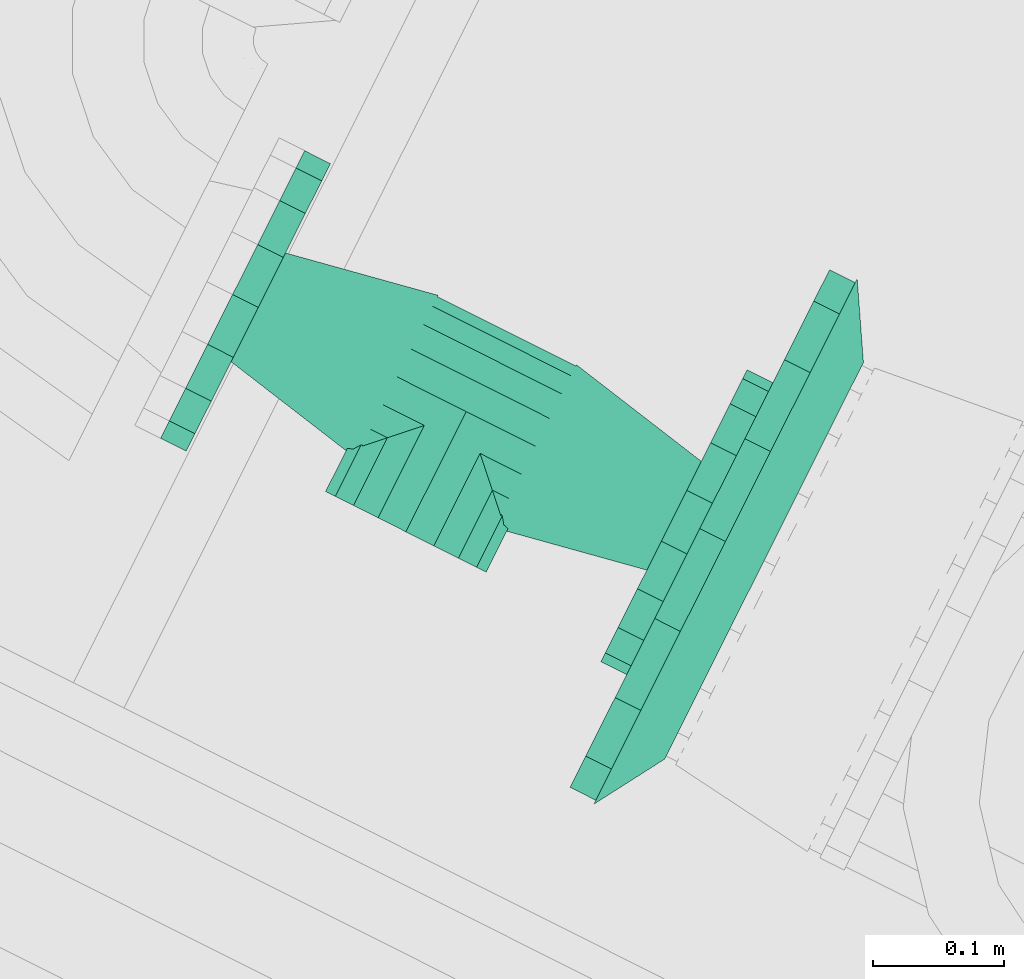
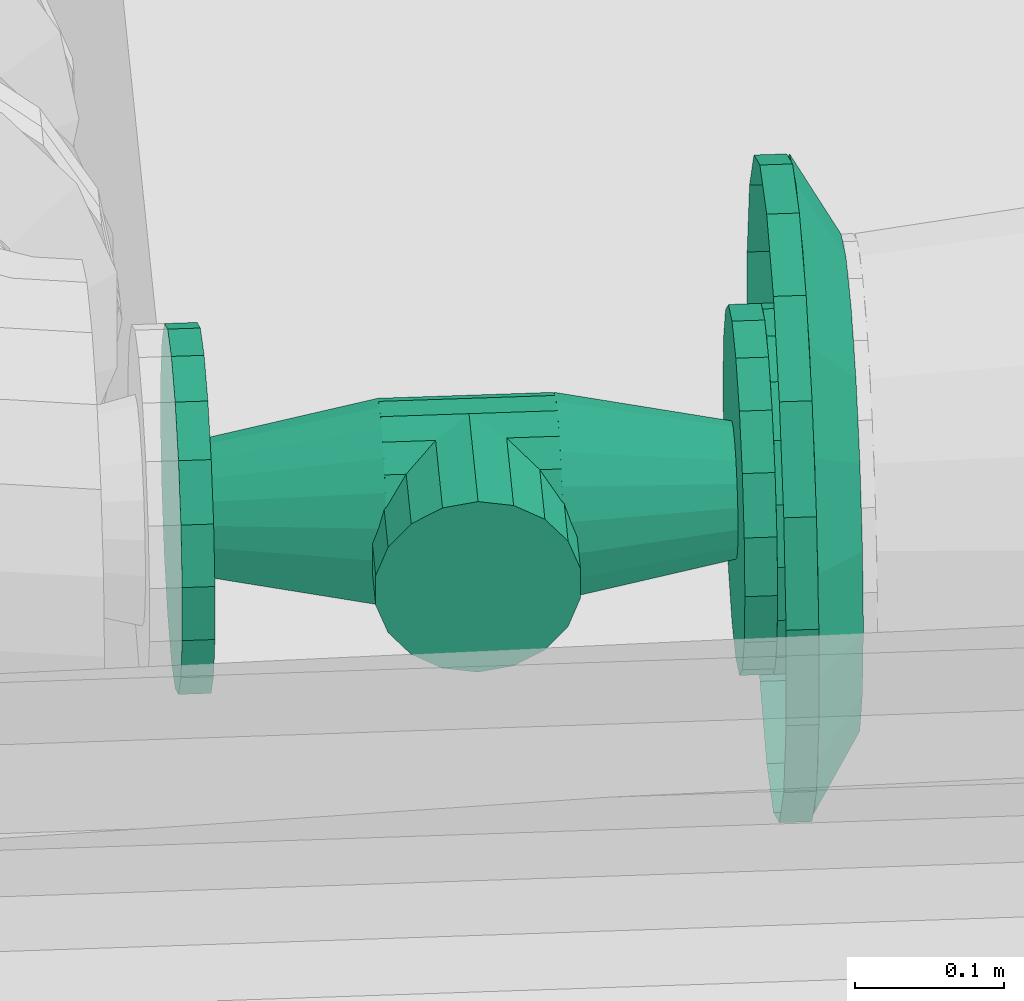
# One storey, part 63 of 206: 1 flow controller, 1 flow fitting.
"""IFC2X3 building model written with IfcOpenShell, lengths in metres."""

from ifc_helpers import new_model, si_unit, derived_unit, direction, frame, origin, place, context, subcontext, project, spatial, face_set, surface_model, source, transform, mapped, material, type_object, type_shapes, element, save


model = new_model("IFC2X3")

# Units and contexts
model_context = context("Model", 3, precision=5.2338327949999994e-05, world=origin(), true_north=direction((0.0, 1.0)))
body_context = subcontext(model_context, "Body", "Model", "MODEL_VIEW")
ifc_project = project(units=[si_unit("LENGTHUNIT", "METRE"), si_unit("AREAUNIT", "SQUARE_METRE"), si_unit("VOLUMEUNIT", "CUBIC_METRE"), si_unit("MASSUNIT", "GRAM", prefix="KILO"), si_unit("PLANEANGLEUNIT", "RADIAN"), derived_unit("THERMALTRANSMITTANCEUNIT", [(si_unit("MASSUNIT", "GRAM", prefix="KILO"), 1), (si_unit("THERMODYNAMICTEMPERATUREUNIT", "KELVIN"), -1), (si_unit("TIMEUNIT", "SECOND"), -3)])], contexts=[model_context])

# Site, building, storey
site_placement = place(None, frame((0.0, 0.0, 0.0), z_axis=(0.0, 0.0, 1.0), x_axis=(0.8939966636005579, -0.4480736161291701, 0.0)))
site = spatial("IfcSite", under=ifc_project, at=site_placement, Name="Default", CompositionType="ELEMENT")
building_placement = place(site_placement, origin())
building = spatial("IfcBuilding", under=site, at=building_placement, CompositionType="ELEMENT")
storey_placement = place(building_placement, origin())
storey = spatial("IfcBuildingStorey", under=building, at=storey_placement, Name="Erdgeschoss", CompositionType="ELEMENT", Elevation=0.0)

# Flow controller
ifc_material = material(Name="IfcSurfaceStyle #1741")
distribution_element_type_1 = type_object("IfcDistributionElementType", Name="Rückschlagklappe 340834:Rückschlagklappe 340834", material=ifc_material)
shared_shape_1 = source(origin(), body_context, "Body", "SurfaceModel", [
    surface_model("IfcFaceBasedSurfaceModel", [(25.684855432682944, 5.395961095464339, 2.479), (25.684855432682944, 5.353208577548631, 2.471461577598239), (25.706855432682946, 5.353208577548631, 2.471461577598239), (25.706855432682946, 5.395961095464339, 2.479), (25.684855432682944, 5.315612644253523, 2.449755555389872), (25.706855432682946, 5.315612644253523, 2.449755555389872), (25.684855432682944, 5.287707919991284, 2.4165000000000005), (25.706855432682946, 5.287707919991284, 2.4165000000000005), (25.684855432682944, 5.272860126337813, 2.3757060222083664), (25.706855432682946, 5.272860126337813, 2.3757060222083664), (25.684855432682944, 5.272860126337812, 2.3322939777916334), (25.706855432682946, 5.272860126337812, 2.3322939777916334), (25.684855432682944, 5.287707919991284, 2.2915000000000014), (25.706855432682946, 5.287707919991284, 2.2915000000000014), (25.684855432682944, 5.315612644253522, 2.2582444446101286), (25.706855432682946, 5.315612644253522, 2.2582444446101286), (25.684855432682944, 5.35320857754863, 2.236538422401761), (25.706855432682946, 5.35320857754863, 2.236538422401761), (25.684855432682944, 5.3959610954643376, 2.2290000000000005), (25.706855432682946, 5.3959610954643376, 2.2290000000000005), (25.684855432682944, 5.438713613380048, 2.236538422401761), (25.706855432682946, 5.438713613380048, 2.236538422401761), (25.684855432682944, 5.476309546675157, 2.2582444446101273), (25.706855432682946, 5.476309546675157, 2.2582444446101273), (25.684855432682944, 5.504214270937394, 2.2915), (25.706855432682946, 5.504214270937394, 2.2915), (25.684855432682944, 5.519062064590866, 2.332293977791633), (25.706855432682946, 5.519062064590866, 2.332293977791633), (25.684855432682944, 5.519062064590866, 2.3757060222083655), (25.706855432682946, 5.519062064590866, 2.3757060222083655), (25.684855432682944, 5.5042142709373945, 2.4165), (25.706855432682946, 5.5042142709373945, 2.4165), (25.684855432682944, 5.476309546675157, 2.44975555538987), (25.706855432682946, 5.476309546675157, 2.44975555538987), (25.684855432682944, 5.4387136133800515, 2.471461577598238), (25.706855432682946, 5.4387136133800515, 2.471461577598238), (25.684855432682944, 5.395961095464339, 2.354), (25.70685543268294, 5.395961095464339, 2.354), (25.706855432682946, 5.4425277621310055, 2.3539999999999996), (25.706855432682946, 5.439719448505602, 2.3699267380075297), (25.82552209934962, 5.461598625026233, 2.377890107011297), (25.82552209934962, 5.465811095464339, 2.353999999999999), (25.706855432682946, 5.431633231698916, 2.383932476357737), (25.82552209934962, 5.449469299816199, 2.398898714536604), (25.706855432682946, 5.419244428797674, 2.3943279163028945), (25.82552209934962, 5.43088609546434, 2.414491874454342), (25.706855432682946, 5.40404731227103, 2.399859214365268), (25.82552209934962, 5.408090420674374, 2.422788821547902), (25.706855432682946, 5.387874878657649, 2.3998592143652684), (25.82552209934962, 5.383831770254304, 2.4227888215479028), (25.706855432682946, 5.372677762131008, 2.394327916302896), (25.82552209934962, 5.361036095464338, 2.414491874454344), (25.706855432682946, 5.360288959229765, 2.383932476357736), (25.82552209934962, 5.342452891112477, 2.398898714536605), (25.706855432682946, 5.352202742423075, 2.36992673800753), (25.82552209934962, 5.330323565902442, 2.3778901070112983), (25.706855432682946, 5.349394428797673, 2.3540000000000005), (25.82552209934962, 5.326111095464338, 2.3540000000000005), (25.706855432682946, 5.352202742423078, 2.338073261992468), (25.82552209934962, 5.330323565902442, 2.3301098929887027), (25.706855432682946, 5.360288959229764, 2.324067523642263), (25.82552209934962, 5.342452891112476, 2.3091012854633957), (25.706855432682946, 5.372677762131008, 2.3136720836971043), (25.82552209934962, 5.361036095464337, 2.293508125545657), (25.706855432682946, 5.387874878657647, 2.3081407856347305), (25.82552209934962, 5.383831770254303, 2.285211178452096), (25.706855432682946, 5.40404731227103, 2.3081407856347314), (25.82552209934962, 5.408090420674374, 2.285211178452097), (25.706855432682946, 5.419244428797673, 2.3136720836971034), (25.82552209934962, 5.430886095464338, 2.2935081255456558), (25.706855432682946, 5.431633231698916, 2.324067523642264), (25.82552209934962, 5.449469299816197, 2.309101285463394), (25.706855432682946, 5.439719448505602, 2.338073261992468), (25.82552209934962, 5.461598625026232, 2.330109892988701), (25.825522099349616, 5.395961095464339, 2.4238499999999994), (25.825522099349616, 5.372070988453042, 2.4196375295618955), (25.944188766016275, 5.372070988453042, 2.4196375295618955), (25.944188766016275, 5.395961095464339, 2.4238499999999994), (25.825522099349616, 5.3510623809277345, 2.4075082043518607), (25.944188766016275, 5.3510623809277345, 2.4075082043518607), (25.825522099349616, 5.335469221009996, 2.3889250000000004), (25.944188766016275, 5.335469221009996, 2.3889250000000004), (25.825522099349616, 5.327172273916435, 2.366129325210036), (25.944188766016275, 5.327172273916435, 2.366129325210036), (25.825522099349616, 5.327172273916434, 2.3418706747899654), (25.944188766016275, 5.327172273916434, 2.3418706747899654), (25.825522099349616, 5.335469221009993, 2.319075), (25.944188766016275, 5.335469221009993, 2.319075), (25.825522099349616, 5.3510623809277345, 2.3004917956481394), (25.944188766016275, 5.3510623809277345, 2.3004917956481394), (25.825522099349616, 5.372070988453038, 2.2883624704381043), (25.944188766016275, 5.372070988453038, 2.2883624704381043), (25.825522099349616, 5.395961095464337, 2.2841500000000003), (25.944188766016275, 5.395961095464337, 2.2841500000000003), (25.825522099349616, 5.419851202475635, 2.2883624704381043), (25.944188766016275, 5.419851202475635, 2.2883624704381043), (25.825522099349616, 5.4408598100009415, 2.300491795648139), (25.944188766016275, 5.4408598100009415, 2.300491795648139), (25.825522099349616, 5.456452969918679, 2.319074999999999), (25.944188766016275, 5.456452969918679, 2.319074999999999), (25.825522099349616, 5.46474991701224, 2.341870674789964), (25.944188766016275, 5.46474991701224, 2.341870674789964), (25.825522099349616, 5.464749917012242, 2.366129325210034), (25.944188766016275, 5.464749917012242, 2.366129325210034), (25.825522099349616, 5.456452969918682, 2.388924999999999), (25.944188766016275, 5.456452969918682, 2.388924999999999), (25.825522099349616, 5.4408598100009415, 2.4075082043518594), (25.944188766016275, 5.4408598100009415, 2.4075082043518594), (25.825522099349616, 5.419851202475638, 2.419637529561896), (25.944188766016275, 5.419851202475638, 2.419637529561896), (25.944188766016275, 5.465811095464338, 2.353999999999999), (25.944188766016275, 5.461598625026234, 2.3778901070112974), (26.062855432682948, 5.439719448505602, 2.369926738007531), (26.062855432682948, 5.442527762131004, 2.3539999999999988), (25.944188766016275, 5.449469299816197, 2.398898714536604), (26.062855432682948, 5.431633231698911, 2.383932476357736), (25.944188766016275, 5.430886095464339, 2.4144918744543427), (26.062855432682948, 5.41924442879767, 2.3943279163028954), (25.944188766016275, 5.408090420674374, 2.422788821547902), (26.062855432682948, 5.404047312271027, 2.3998592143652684), (25.944188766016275, 5.383831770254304, 2.4227888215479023), (26.062855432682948, 5.387874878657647, 2.3998592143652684), (25.944188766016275, 5.361036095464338, 2.414491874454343), (26.062855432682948, 5.372677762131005, 2.3943279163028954), (25.944188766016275, 5.342452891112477, 2.3988987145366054), (26.062855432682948, 5.360288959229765, 2.383932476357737), (25.944188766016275, 5.330323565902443, 2.3778901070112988), (26.062855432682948, 5.352202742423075, 2.369926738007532), (25.944188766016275, 5.326111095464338, 2.354), (26.062855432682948, 5.349394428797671, 2.3539999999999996), (25.944188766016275, 5.33032356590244, 2.3301098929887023), (26.062855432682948, 5.352202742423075, 2.3380732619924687), (25.944188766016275, 5.342452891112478, 2.309101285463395), (26.062855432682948, 5.360288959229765, 2.324067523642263), (25.944188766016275, 5.361036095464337, 2.293508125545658), (26.062855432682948, 5.372677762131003, 2.3136720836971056), (25.944188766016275, 5.383831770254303, 2.285211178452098), (26.062855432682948, 5.387874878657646, 2.3081407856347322), (25.944188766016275, 5.408090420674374, 2.285211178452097), (26.062855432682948, 5.404047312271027, 2.3081407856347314), (25.944188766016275, 5.430886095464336, 2.2935081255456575), (26.062855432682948, 5.41924442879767, 2.313672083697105), (25.944188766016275, 5.449469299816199, 2.309101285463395), (26.062855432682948, 5.431633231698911, 2.324067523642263), (25.944188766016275, 5.46159862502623, 2.330109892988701), (26.062855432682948, 5.439719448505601, 2.338073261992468), (25.884855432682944, 5.395961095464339, 2.4238499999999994), (25.860965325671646, 5.395961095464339, 2.4196375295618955), (25.860965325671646, 5.292961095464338, 2.419637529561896), (25.884855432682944, 5.292961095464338, 2.42385), (25.83995671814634, 5.3959610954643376, 2.4075082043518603), (25.83995671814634, 5.292961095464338, 2.407508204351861), (25.8243635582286, 5.39596109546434, 2.388925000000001), (25.8243635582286, 5.292961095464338, 2.3889250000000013), (25.81606661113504, 5.3959610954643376, 2.366129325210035), (25.81606661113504, 5.292961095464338, 2.366129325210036), (25.81606661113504, 5.3959610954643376, 2.3418706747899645), (25.81606661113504, 5.292961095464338, 2.341870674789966), (25.8243635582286, 5.395961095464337, 2.3190749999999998), (25.8243635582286, 5.292961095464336, 2.3190750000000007), (25.83995671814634, 5.395961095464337, 2.300491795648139), (25.83995671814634, 5.292961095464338, 2.3004917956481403), (25.860965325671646, 5.395961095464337, 2.2883624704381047), (25.860965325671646, 5.292961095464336, 2.288362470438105), (25.884855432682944, 5.395961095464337, 2.2841500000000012), (25.884855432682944, 5.292961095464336, 2.2841500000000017), (25.908745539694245, 5.395961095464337, 2.288362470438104), (25.908745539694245, 5.292961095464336, 2.288362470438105), (25.92975414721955, 5.395961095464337, 2.300491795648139), (25.92975414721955, 5.292961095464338, 2.3004917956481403), (25.945347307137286, 5.395961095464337, 2.3190749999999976), (25.945347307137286, 5.292961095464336, 2.3190749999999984), (25.953644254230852, 5.395961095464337, 2.3418706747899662), (25.953644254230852, 5.292961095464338, 2.3418706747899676), (25.953644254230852, 5.3959610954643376, 2.366129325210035), (25.953644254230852, 5.292961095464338, 2.366129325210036), (25.945347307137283, 5.39596109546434, 2.388924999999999), (25.945347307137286, 5.292961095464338, 2.3889249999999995), (25.929754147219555, 5.3959610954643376, 2.407508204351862), (25.92975414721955, 5.292961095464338, 2.407508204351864), (25.908745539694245, 5.39596109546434, 2.419637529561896), (25.908745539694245, 5.292961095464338, 2.419637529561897), (25.884855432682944, 5.292961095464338, 2.354000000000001), (26.062855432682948, 5.270961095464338, 2.354000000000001), (26.062855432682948, 5.278499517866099, 2.3112474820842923), (26.084855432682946, 5.278499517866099, 2.3112474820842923), (26.084855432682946, 5.270961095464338, 2.354000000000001), (26.062855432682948, 5.300205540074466, 2.273651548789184), (26.084855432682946, 5.300205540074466, 2.273651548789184), (26.062855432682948, 5.333461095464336, 2.2457468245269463), (26.084855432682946, 5.333461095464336, 2.2457468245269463), (26.062855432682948, 5.374255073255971, 2.230899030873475), (26.084855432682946, 5.374255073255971, 2.230899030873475), (26.062855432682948, 5.417667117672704, 2.230899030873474), (26.084855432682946, 5.417667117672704, 2.230899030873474), (26.062855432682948, 5.458461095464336, 2.245746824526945), (26.084855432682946, 5.458461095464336, 2.245746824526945), (26.062855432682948, 5.49171665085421, 2.2736515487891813), (26.084855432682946, 5.49171665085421, 2.2736515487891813), (26.062855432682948, 5.513422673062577, 2.311247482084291), (26.084855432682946, 5.513422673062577, 2.311247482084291), (26.062855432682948, 5.5209610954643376, 2.3539999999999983), (26.084855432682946, 5.5209610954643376, 2.3539999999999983), (26.062855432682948, 5.513422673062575, 2.396752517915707), (26.084855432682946, 5.513422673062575, 2.396752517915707), (26.062855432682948, 5.49171665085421, 2.4343484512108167), (26.084855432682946, 5.49171665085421, 2.4343484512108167), (26.062855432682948, 5.45846109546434, 2.462253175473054), (26.084855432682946, 5.45846109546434, 2.462253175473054), (26.062855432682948, 5.417667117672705, 2.4771009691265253), (26.084855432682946, 5.417667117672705, 2.4771009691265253), (26.062855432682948, 5.3742550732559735, 2.477100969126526), (26.084855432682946, 5.3742550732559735, 2.477100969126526), (26.062855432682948, 5.33346109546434, 2.4622531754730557), (26.084855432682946, 5.33346109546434, 2.4622531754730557), (26.062855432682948, 5.300205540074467, 2.4343484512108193), (26.084855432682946, 5.300205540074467, 2.4343484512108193), (26.062855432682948, 5.278499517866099, 2.39675251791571), (26.084855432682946, 5.278499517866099, 2.39675251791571), (26.062855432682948, 5.3959610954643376, 2.354), (26.084855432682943, 5.3959610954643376, 2.354)], [face_set([[[0, 1, 2, 3]], [[1, 4, 5, 2]], [[4, 6, 7, 5]], [[6, 8, 9, 7]], [[8, 10, 11, 9]], [[10, 12, 13, 11]], [[12, 14, 15, 13]], [[14, 16, 17, 15]], [[16, 18, 19, 17]], [[18, 20, 21, 19]], [[20, 22, 23, 21]], [[22, 24, 25, 23]], [[24, 26, 27, 25]], [[26, 28, 29, 27]], [[28, 30, 31, 29]], [[30, 32, 33, 31]], [[32, 34, 35, 33]], [[34, 0, 3, 35]], [[36, 1, 0]], [[36, 4, 1]], [[36, 6, 4]], [[36, 8, 6]], [[36, 10, 8]], [[36, 12, 10]], [[36, 14, 12]], [[36, 16, 14]], [[36, 18, 16]], [[36, 20, 18]], [[36, 22, 20]], [[36, 24, 22]], [[36, 26, 24]], [[36, 28, 26]], [[36, 30, 28]], [[36, 32, 30]], [[36, 34, 32]], [[36, 0, 34]], [[37, 35, 3]], [[37, 33, 35]], [[37, 31, 33]], [[37, 29, 31]], [[37, 27, 29]], [[37, 25, 27]], [[37, 23, 25]], [[37, 21, 23]], [[37, 19, 21]], [[37, 17, 19]], [[37, 15, 17]], [[37, 13, 15]], [[37, 11, 13]], [[37, 9, 11]], [[37, 7, 9]], [[37, 5, 7]], [[37, 2, 5]], [[37, 3, 2]], [[38, 39, 40, 41]], [[39, 42, 43, 40]], [[42, 44, 45, 43]], [[44, 46, 47, 45]], [[46, 48, 49, 47]], [[48, 50, 51, 49]], [[50, 52, 53, 51]], [[52, 54, 55, 53]], [[54, 56, 57, 55]], [[56, 58, 59, 57]], [[58, 60, 61, 59]], [[60, 62, 63, 61]], [[62, 64, 65, 63]], [[64, 66, 67, 65]], [[66, 68, 69, 67]], [[68, 70, 71, 69]], [[70, 72, 73, 71]], [[72, 38, 41, 73]], [[74, 75, 76, 77]], [[75, 78, 79, 76]], [[78, 80, 81, 79]], [[80, 82, 83, 81]], [[82, 84, 85, 83]], [[84, 86, 87, 85]], [[86, 88, 89, 87]], [[88, 90, 91, 89]], [[90, 92, 93, 91]], [[92, 94, 95, 93]], [[94, 96, 97, 95]], [[96, 98, 99, 97]], [[98, 100, 101, 99]], [[100, 102, 103, 101]], [[102, 104, 105, 103]], [[104, 106, 107, 105]], [[106, 108, 109, 107]], [[108, 74, 77, 109]], [[110, 111, 112, 113]], [[111, 114, 115, 112]], [[114, 116, 117, 115]], [[116, 118, 119, 117]], [[118, 120, 121, 119]], [[120, 122, 123, 121]], [[122, 124, 125, 123]], [[124, 126, 127, 125]], [[126, 128, 129, 127]], [[128, 130, 131, 129]], [[130, 132, 133, 131]], [[132, 134, 135, 133]], [[134, 136, 137, 135]], [[136, 138, 139, 137]], [[138, 140, 141, 139]], [[140, 142, 143, 141]], [[142, 144, 145, 143]], [[144, 110, 113, 145]], [[146, 147, 148, 149]], [[147, 150, 151, 148]], [[150, 152, 153, 151]], [[152, 154, 155, 153]], [[154, 156, 157, 155]], [[156, 158, 159, 157]], [[158, 160, 161, 159]], [[160, 162, 163, 161]], [[162, 164, 165, 163]], [[164, 166, 167, 165]], [[166, 168, 169, 167]], [[168, 170, 171, 169]], [[170, 172, 173, 171]], [[172, 174, 175, 173]], [[174, 176, 177, 175]], [[176, 178, 179, 177]], [[178, 180, 181, 179]], [[180, 146, 149, 181]], [[182, 181, 149]], [[182, 179, 181]], [[182, 177, 179]], [[182, 175, 177]], [[182, 173, 175]], [[182, 171, 173]], [[182, 169, 171]], [[182, 167, 169]], [[182, 165, 167]], [[182, 163, 165]], [[182, 161, 163]], [[182, 159, 161]], [[182, 157, 159]], [[182, 155, 157]], [[182, 153, 155]], [[182, 151, 153]], [[182, 148, 151]], [[182, 149, 148]], [[183, 184, 185, 186]], [[184, 187, 188, 185]], [[187, 189, 190, 188]], [[189, 191, 192, 190]], [[191, 193, 194, 192]], [[193, 195, 196, 194]], [[195, 197, 198, 196]], [[197, 199, 200, 198]], [[199, 201, 202, 200]], [[201, 203, 204, 202]], [[203, 205, 206, 204]], [[205, 207, 208, 206]], [[207, 209, 210, 208]], [[209, 211, 212, 210]], [[211, 213, 214, 212]], [[213, 215, 216, 214]], [[215, 217, 218, 216]], [[217, 183, 186, 218]], [[219, 184, 183]], [[219, 187, 184]], [[219, 189, 187]], [[219, 191, 189]], [[219, 193, 191]], [[219, 195, 193]], [[219, 197, 195]], [[219, 199, 197]], [[219, 201, 199]], [[219, 203, 201]], [[219, 205, 203]], [[219, 207, 205]], [[219, 209, 207]], [[219, 211, 209]], [[219, 213, 211]], [[219, 215, 213]], [[219, 217, 215]], [[219, 183, 217]], [[220, 218, 186]], [[220, 216, 218]], [[220, 214, 216]], [[220, 212, 214]], [[220, 210, 212]], [[220, 208, 210]], [[220, 206, 208]], [[220, 204, 206]], [[220, 202, 204]], [[220, 200, 202]], [[220, 198, 200]], [[220, 196, 198]], [[220, 194, 196]], [[220, 192, 194]], [[220, 190, 192]], [[220, 188, 190]], [[220, 185, 188]], [[220, 186, 185]]])]),
])
type_shapes(distribution_element_type_1, [shared_shape_1])
flow_controller_placement = place(storey_placement, origin())
element("IfcFlowController", 1, at=flow_controller_placement, inside=storey, type_object=distribution_element_type_1, material=ifc_material, Name="Rückschlagklappe", ObjectType="Rückschlagklappe", context=body_context, shape_type="MappedRepresentation", body=[
    mapped(shared_shape_1, transform((0.0, 0.0, 0.0), scale=1.0)),
])

# Flow fitting
distribution_element_type_2 = type_object("IfcDistributionElementType", Name="Flansch 340903:Flansch 340903", material=ifc_material)
shared_shape_2 = source(origin(), body_context, "Body", "SurfaceModel", [
    surface_model("IfcFaceBasedSurfaceModel", [(26.084855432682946, 5.395961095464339, 2.479), (26.084855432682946, 5.353208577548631, 2.471461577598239), (26.106855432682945, 5.353208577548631, 2.471461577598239), (26.106855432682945, 5.395961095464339, 2.479), (26.084855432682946, 5.315612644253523, 2.449755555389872), (26.106855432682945, 5.315612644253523, 2.449755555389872), (26.084855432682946, 5.287707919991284, 2.4165000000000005), (26.106855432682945, 5.287707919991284, 2.4165000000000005), (26.084855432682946, 5.272860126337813, 2.3757060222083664), (26.106855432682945, 5.272860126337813, 2.3757060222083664), (26.084855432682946, 5.272860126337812, 2.3322939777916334), (26.106855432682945, 5.272860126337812, 2.3322939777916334), (26.084855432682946, 5.287707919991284, 2.2915000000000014), (26.106855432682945, 5.287707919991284, 2.2915000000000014), (26.084855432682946, 5.315612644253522, 2.2582444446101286), (26.106855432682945, 5.315612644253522, 2.2582444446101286), (26.084855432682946, 5.35320857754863, 2.236538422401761), (26.106855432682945, 5.35320857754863, 2.236538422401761), (26.084855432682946, 5.3959610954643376, 2.2290000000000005), (26.106855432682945, 5.3959610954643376, 2.2290000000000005), (26.084855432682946, 5.438713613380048, 2.236538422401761), (26.106855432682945, 5.438713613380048, 2.236538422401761), (26.084855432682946, 5.476309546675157, 2.2582444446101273), (26.106855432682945, 5.476309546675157, 2.2582444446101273), (26.084855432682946, 5.504214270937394, 2.2915), (26.106855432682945, 5.504214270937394, 2.2915), (26.084855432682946, 5.519062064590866, 2.332293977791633), (26.106855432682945, 5.519062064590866, 2.332293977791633), (26.084855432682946, 5.519062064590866, 2.3757060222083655), (26.106855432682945, 5.519062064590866, 2.3757060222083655), (26.084855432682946, 5.5042142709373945, 2.4165), (26.106855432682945, 5.5042142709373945, 2.4165), (26.084855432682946, 5.476309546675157, 2.44975555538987), (26.106855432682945, 5.476309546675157, 2.44975555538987), (26.084855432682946, 5.4387136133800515, 2.471461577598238), (26.106855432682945, 5.4387136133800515, 2.471461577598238), (26.106855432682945, 5.395961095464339, 2.354), (26.106855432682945, 5.3179610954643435, 2.3539999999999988), (26.106855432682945, 5.322665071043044, 2.327322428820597), (26.139855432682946, 5.330323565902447, 2.330109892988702), (26.139855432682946, 5.32611109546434, 2.353999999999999), (26.106855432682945, 5.336209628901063, 2.3038625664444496), (26.139855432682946, 5.3424528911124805, 2.3091012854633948), (26.106855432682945, 5.356961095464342, 2.286450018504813), (26.139855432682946, 5.361036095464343, 2.293508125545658), (26.106855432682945, 5.382416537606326, 2.2771849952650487), (26.139855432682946, 5.383831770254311, 2.2852111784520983), (26.106855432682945, 5.409505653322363, 2.2771849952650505), (26.139855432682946, 5.408090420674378, 2.2852111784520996), (26.106855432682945, 5.4349610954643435, 2.286450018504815), (26.139855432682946, 5.430886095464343, 2.293508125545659), (26.106855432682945, 5.455712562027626, 2.3038625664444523), (26.139855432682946, 5.449469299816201, 2.3091012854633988), (26.106855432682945, 5.4692571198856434, 2.3273224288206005), (26.139855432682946, 5.461598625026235, 2.330109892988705), (26.106855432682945, 5.473961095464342, 2.354000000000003), (26.139855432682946, 5.465811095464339, 2.354000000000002), (26.106855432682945, 5.469257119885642, 2.3806775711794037), (26.139855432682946, 5.461598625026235, 2.3778901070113), (26.106855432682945, 5.455712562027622, 2.404137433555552), (26.139855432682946, 5.449469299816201, 2.3988987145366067), (26.106855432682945, 5.434961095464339, 2.4215499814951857), (26.139855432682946, 5.43088609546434, 2.414491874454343), (26.106855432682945, 5.409505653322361, 2.4308150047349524), (26.139855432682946, 5.408090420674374, 2.422788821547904), (26.106855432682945, 5.382416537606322, 2.430815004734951), (26.139855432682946, 5.383831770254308, 2.4227888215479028), (26.106855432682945, 5.35696109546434, 2.4215499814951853), (26.139855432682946, 5.361036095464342, 2.4144918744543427), (26.106855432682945, 5.336209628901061, 2.4041374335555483), (26.139855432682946, 5.34245289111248, 2.398898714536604), (26.106855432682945, 5.32266507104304, 2.3806775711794), (26.139855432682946, 5.330323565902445, 2.3778901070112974), (26.084855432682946, 5.39596109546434, 2.579), (26.084855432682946, 5.319006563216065, 2.5654308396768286), (26.106855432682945, 5.319006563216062, 2.565430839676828), (26.106855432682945, 5.3959610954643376, 2.5789999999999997), (26.084855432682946, 5.251333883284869, 2.5263599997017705), (26.106855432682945, 5.251333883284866, 2.5263599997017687), (26.084855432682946, 5.201105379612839, 2.4665000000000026), (26.106855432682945, 5.201105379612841, 2.466499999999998), (26.084855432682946, 5.174379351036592, 2.393070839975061), (26.106855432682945, 5.1743793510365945, 2.393070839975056), (26.084855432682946, 5.174379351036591, 2.314929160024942), (26.106855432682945, 5.1743793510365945, 2.314929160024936), (26.084855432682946, 5.201105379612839, 2.2415), (26.106855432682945, 5.201105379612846, 2.2414999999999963), (26.084855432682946, 5.251333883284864, 2.1816400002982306), (26.106855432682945, 5.251333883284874, 2.181640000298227), (26.084855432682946, 5.319006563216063, 2.1425691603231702), (26.106855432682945, 5.319006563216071, 2.14256916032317), (26.084855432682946, 5.395961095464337, 2.128999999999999), (26.106855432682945, 5.395961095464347, 2.1290000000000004), (26.084855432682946, 5.472915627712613, 2.1425691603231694), (26.106855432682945, 5.472915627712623, 2.1425691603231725), (26.084855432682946, 5.540588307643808, 2.1816400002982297), (26.106855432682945, 5.5405883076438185, 2.1816400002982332), (26.084855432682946, 5.590816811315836, 2.2414999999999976), (26.106855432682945, 5.590816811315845, 2.241500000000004), (26.084855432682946, 5.617542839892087, 2.3149291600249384), (26.106855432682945, 5.617542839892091, 2.3149291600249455), (26.084855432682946, 5.617542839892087, 2.3930708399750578), (26.106855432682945, 5.61754283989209, 2.3930708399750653), (26.084855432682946, 5.590816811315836, 2.466499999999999), (26.106855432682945, 5.59081681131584, 2.4665000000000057), (26.084855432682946, 5.540588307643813, 2.5263599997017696), (26.106855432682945, 5.540588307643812, 2.5263599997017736), (26.084855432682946, 5.472915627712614, 2.5654308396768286), (26.106855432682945, 5.472915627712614, 2.5654308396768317), (26.10685543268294, 5.170961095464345, 2.3539999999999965), (26.10685543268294, 5.184530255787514, 2.2770454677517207), (26.139855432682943, 5.236354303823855, 2.2959078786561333), (26.139855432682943, 5.226111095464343, 2.353999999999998), (26.10685543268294, 5.223601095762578, 2.2093727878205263), (26.139855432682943, 5.265848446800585, 2.2448225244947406), (26.10685543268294, 5.283461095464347, 2.1591442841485), (26.139855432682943, 5.311036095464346, 2.2069055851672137), (26.10685543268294, 5.356890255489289, 2.132418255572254), (26.139855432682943, 5.366466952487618, 2.186730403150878), (26.10685543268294, 5.435031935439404, 2.132418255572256), (26.139855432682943, 5.425455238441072, 2.18673040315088), (26.10685543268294, 5.5084610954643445, 2.159144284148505), (26.139855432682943, 5.480886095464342, 2.206905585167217), (26.10685543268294, 5.568321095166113, 2.2093727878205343), (26.139855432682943, 5.5260737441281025, 2.244822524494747), (26.10685543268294, 5.607391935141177, 2.27704546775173), (26.139855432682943, 5.555567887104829, 2.29590787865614), (26.10685543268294, 5.620961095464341, 2.3540000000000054), (26.139855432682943, 5.5658110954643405, 2.354000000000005), (26.10685543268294, 5.607391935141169, 2.430954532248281), (26.139855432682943, 5.555567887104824, 2.412092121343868), (26.10685543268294, 5.568321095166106, 2.498627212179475), (26.139855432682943, 5.526073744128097, 2.463177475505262), (26.10685543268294, 5.508461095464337, 2.548855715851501), (26.139855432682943, 5.480886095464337, 2.5010944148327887), (26.10685543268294, 5.435031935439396, 2.5755817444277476), (26.139855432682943, 5.4254552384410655, 2.521269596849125), (26.10685543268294, 5.3568902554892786, 2.575581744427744), (26.139855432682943, 5.366466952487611, 2.521269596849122), (26.10685543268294, 5.2834610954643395, 2.548855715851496), (26.139855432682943, 5.311036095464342, 2.5010944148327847), (26.10685543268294, 5.223601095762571, 2.4986272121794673), (26.139855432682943, 5.265848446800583, 2.4631774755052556), (26.10685543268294, 5.184530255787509, 2.430954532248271), (26.139855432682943, 5.236354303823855, 2.4120921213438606)], [face_set([[[0, 1, 2, 3]], [[1, 4, 5, 2]], [[4, 6, 7, 5]], [[6, 8, 9, 7]], [[8, 10, 11, 9]], [[10, 12, 13, 11]], [[12, 14, 15, 13]], [[14, 16, 17, 15]], [[16, 18, 19, 17]], [[18, 20, 21, 19]], [[20, 22, 23, 21]], [[22, 24, 25, 23]], [[24, 26, 27, 25]], [[26, 28, 29, 27]], [[28, 30, 31, 29]], [[30, 32, 33, 31]], [[32, 34, 35, 33]], [[34, 0, 3, 35]], [[36, 35, 3]], [[36, 33, 35]], [[36, 31, 33]], [[36, 29, 31]], [[36, 27, 29]], [[36, 25, 27]], [[36, 23, 25]], [[36, 21, 23]], [[36, 19, 21]], [[36, 17, 19]], [[36, 15, 17]], [[36, 13, 15]], [[36, 11, 13]], [[36, 9, 11]], [[36, 7, 9]], [[36, 5, 7]], [[36, 2, 5]], [[36, 3, 2]], [[37, 38, 39, 40]], [[38, 41, 42, 39]], [[41, 43, 44, 42]], [[43, 45, 46, 44]], [[45, 47, 48, 46]], [[47, 49, 50, 48]], [[49, 51, 52, 50]], [[51, 53, 54, 52]], [[53, 55, 56, 54]], [[55, 57, 58, 56]], [[57, 59, 60, 58]], [[59, 61, 62, 60]], [[61, 63, 64, 62]], [[63, 65, 66, 64]], [[65, 67, 68, 66]], [[67, 69, 70, 68]], [[69, 71, 72, 70]], [[71, 37, 40, 72]], [[73, 74, 75, 76]], [[74, 77, 78, 75]], [[77, 79, 80, 78]], [[79, 81, 82, 80]], [[81, 83, 84, 82]], [[83, 85, 86, 84]], [[85, 87, 88, 86]], [[87, 89, 90, 88]], [[89, 91, 92, 90]], [[91, 93, 94, 92]], [[93, 95, 96, 94]], [[95, 97, 98, 96]], [[97, 99, 100, 98]], [[99, 101, 102, 100]], [[101, 103, 104, 102]], [[103, 105, 106, 104]], [[105, 107, 108, 106]], [[107, 73, 76, 108]], [[109, 110, 111, 112]], [[110, 113, 114, 111]], [[113, 115, 116, 114]], [[115, 117, 118, 116]], [[117, 119, 120, 118]], [[119, 121, 122, 120]], [[121, 123, 124, 122]], [[123, 125, 126, 124]], [[125, 127, 128, 126]], [[127, 129, 130, 128]], [[129, 131, 132, 130]], [[131, 133, 134, 132]], [[133, 135, 136, 134]], [[135, 137, 138, 136]], [[137, 139, 140, 138]], [[139, 141, 142, 140]], [[141, 143, 144, 142]], [[143, 109, 112, 144]]])]),
])
type_shapes(distribution_element_type_2, [shared_shape_2])
flow_fitting_placement = place(storey_placement, origin())
element("IfcFlowFitting", 2, at=flow_fitting_placement, inside=storey, type_object=distribution_element_type_2, material=ifc_material, Name="Flansch", ObjectType="Flansch", context=body_context, shape_type="MappedRepresentation", body=[
    mapped(shared_shape_2, transform((0.0, 0.0, 0.0), scale=1.0)),
])

save(model, "model.ifc")
